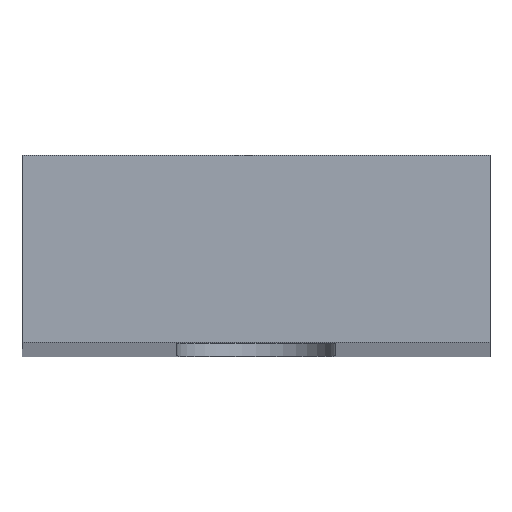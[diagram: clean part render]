
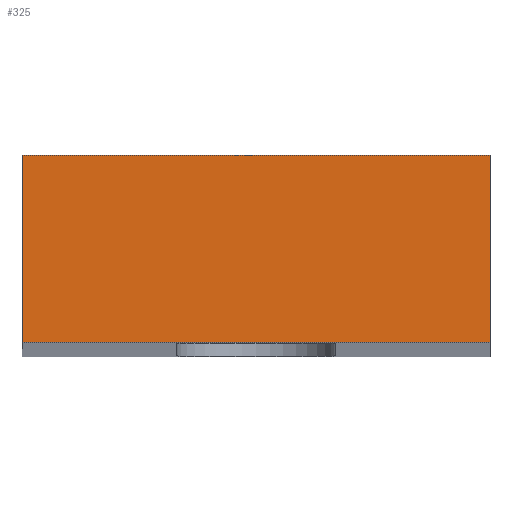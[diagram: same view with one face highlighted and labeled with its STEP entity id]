
A CAD part, top view. The second image highlights one B-rep face of the part: STEP entity #325.
In plain terms, the highlighted planar face has unit normal (0, 0, 1).
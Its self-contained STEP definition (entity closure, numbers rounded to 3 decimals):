
#24 = VERTEX_POINT('',#25);
#25 = CARTESIAN_POINT('',(35.,-22.,90.));
#32 = PLANE('',#33);
#33 = AXIS2_PLACEMENT_3D('',#34,#35,#36);
#34 = CARTESIAN_POINT('',(35.,-22.,-90.));
#35 = DIRECTION('',(1.,0.,0.));
#36 = DIRECTION('',(0.,0.,1.));
#44 = PLANE('',#45);
#45 = AXIS2_PLACEMENT_3D('',#46,#47,#48);
#46 = CARTESIAN_POINT('',(35.,-22.,-90.));
#47 = DIRECTION('',(0.,1.,0.));
#48 = DIRECTION('',(0.,0.,1.));
#85 = VERTEX_POINT('',#86);
#86 = CARTESIAN_POINT('',(35.,-18.,90.));
#100 = PLANE('',#101);
#101 = AXIS2_PLACEMENT_3D('',#102,#103,#104);
#102 = CARTESIAN_POINT('',(35.,-18.,-90.));
#103 = DIRECTION('',(0.,1.,0.));
#104 = DIRECTION('',(0.,0.,1.));
#112 = EDGE_CURVE('',#24,#85,#113,.T.);
#113 = SURFACE_CURVE('',#114,(#118,#125),.PCURVE_S1.);
#114 = LINE('',#115,#116);
#115 = CARTESIAN_POINT('',(35.,-22.,90.));
#116 = VECTOR('',#117,1.);
#117 = DIRECTION('',(0.,1.,0.));
#118 = PCURVE('',#32,#119);
#119 = DEFINITIONAL_REPRESENTATION('',(#120),#124);
#120 = LINE('',#121,#122);
#121 = CARTESIAN_POINT('',(180.,0.));
#122 = VECTOR('',#123,1.);
#123 = DIRECTION('',(0.,-1.));
#124 = ( GEOMETRIC_REPRESENTATION_CONTEXT(2) 
PARAMETRIC_REPRESENTATION_CONTEXT() REPRESENTATION_CONTEXT('2D SPACE',''
  ) );
#125 = PCURVE('',#126,#131);
#126 = PLANE('',#127);
#127 = AXIS2_PLACEMENT_3D('',#128,#129,#130);
#128 = CARTESIAN_POINT('',(35.,-22.,90.));
#129 = DIRECTION('',(0.,0.,1.));
#130 = DIRECTION('',(1.,0.,0.));
#131 = DEFINITIONAL_REPRESENTATION('',(#132),#136);
#132 = LINE('',#133,#134);
#133 = CARTESIAN_POINT('',(0.,0.));
#134 = VECTOR('',#135,1.);
#135 = DIRECTION('',(0.,1.));
#136 = ( GEOMETRIC_REPRESENTATION_CONTEXT(2) 
PARAMETRIC_REPRESENTATION_CONTEXT() REPRESENTATION_CONTEXT('2D SPACE',''
  ) );
#165 = EDGE_CURVE('',#24,#166,#168,.T.);
#166 = VERTEX_POINT('',#167);
#167 = CARTESIAN_POINT('',(45.,-22.,90.));
#168 = SURFACE_CURVE('',#169,(#173,#180),.PCURVE_S1.);
#169 = LINE('',#170,#171);
#170 = CARTESIAN_POINT('',(35.,-22.,90.));
#171 = VECTOR('',#172,1.);
#172 = DIRECTION('',(1.,0.,0.));
#173 = PCURVE('',#44,#174);
#174 = DEFINITIONAL_REPRESENTATION('',(#175),#179);
#175 = LINE('',#176,#177);
#176 = CARTESIAN_POINT('',(180.,0.));
#177 = VECTOR('',#178,1.);
#178 = DIRECTION('',(0.,1.));
#179 = ( GEOMETRIC_REPRESENTATION_CONTEXT(2) 
PARAMETRIC_REPRESENTATION_CONTEXT() REPRESENTATION_CONTEXT('2D SPACE',''
  ) );
#180 = PCURVE('',#126,#181);
#181 = DEFINITIONAL_REPRESENTATION('',(#182),#186);
#182 = LINE('',#183,#184);
#183 = CARTESIAN_POINT('',(0.,0.));
#184 = VECTOR('',#185,1.);
#185 = DIRECTION('',(1.,0.));
#186 = ( GEOMETRIC_REPRESENTATION_CONTEXT(2) 
PARAMETRIC_REPRESENTATION_CONTEXT() REPRESENTATION_CONTEXT('2D SPACE',''
  ) );
#202 = PLANE('',#203);
#203 = AXIS2_PLACEMENT_3D('',#204,#205,#206);
#204 = CARTESIAN_POINT('',(45.,-22.,-90.));
#205 = DIRECTION('',(1.,0.,0.));
#206 = DIRECTION('',(0.,0.,1.));
#325 = ADVANCED_FACE('',(#326),#126,.T.);
#326 = FACE_BOUND('',#327,.T.);
#327 = EDGE_LOOP('',(#328,#329,#330,#353));
#328 = ORIENTED_EDGE('',*,*,#112,.F.);
#329 = ORIENTED_EDGE('',*,*,#165,.T.);
#330 = ORIENTED_EDGE('',*,*,#331,.T.);
#331 = EDGE_CURVE('',#166,#332,#334,.T.);
#332 = VERTEX_POINT('',#333);
#333 = CARTESIAN_POINT('',(45.,-18.,90.));
#334 = SURFACE_CURVE('',#335,(#339,#346),.PCURVE_S1.);
#335 = LINE('',#336,#337);
#336 = CARTESIAN_POINT('',(45.,-22.,90.));
#337 = VECTOR('',#338,1.);
#338 = DIRECTION('',(0.,1.,0.));
#339 = PCURVE('',#126,#340);
#340 = DEFINITIONAL_REPRESENTATION('',(#341),#345);
#341 = LINE('',#342,#343);
#342 = CARTESIAN_POINT('',(10.,0.));
#343 = VECTOR('',#344,1.);
#344 = DIRECTION('',(0.,1.));
#345 = ( GEOMETRIC_REPRESENTATION_CONTEXT(2) 
PARAMETRIC_REPRESENTATION_CONTEXT() REPRESENTATION_CONTEXT('2D SPACE',''
  ) );
#346 = PCURVE('',#202,#347);
#347 = DEFINITIONAL_REPRESENTATION('',(#348),#352);
#348 = LINE('',#349,#350);
#349 = CARTESIAN_POINT('',(180.,0.));
#350 = VECTOR('',#351,1.);
#351 = DIRECTION('',(0.,-1.));
#352 = ( GEOMETRIC_REPRESENTATION_CONTEXT(2) 
PARAMETRIC_REPRESENTATION_CONTEXT() REPRESENTATION_CONTEXT('2D SPACE',''
  ) );
#353 = ORIENTED_EDGE('',*,*,#354,.F.);
#354 = EDGE_CURVE('',#85,#332,#355,.T.);
#355 = SURFACE_CURVE('',#356,(#360,#367),.PCURVE_S1.);
#356 = LINE('',#357,#358);
#357 = CARTESIAN_POINT('',(35.,-18.,90.));
#358 = VECTOR('',#359,1.);
#359 = DIRECTION('',(1.,0.,0.));
#360 = PCURVE('',#126,#361);
#361 = DEFINITIONAL_REPRESENTATION('',(#362),#366);
#362 = LINE('',#363,#364);
#363 = CARTESIAN_POINT('',(0.,4.));
#364 = VECTOR('',#365,1.);
#365 = DIRECTION('',(1.,0.));
#366 = ( GEOMETRIC_REPRESENTATION_CONTEXT(2) 
PARAMETRIC_REPRESENTATION_CONTEXT() REPRESENTATION_CONTEXT('2D SPACE',''
  ) );
#367 = PCURVE('',#100,#368);
#368 = DEFINITIONAL_REPRESENTATION('',(#369),#373);
#369 = LINE('',#370,#371);
#370 = CARTESIAN_POINT('',(180.,0.));
#371 = VECTOR('',#372,1.);
#372 = DIRECTION('',(0.,1.));
#373 = ( GEOMETRIC_REPRESENTATION_CONTEXT(2) 
PARAMETRIC_REPRESENTATION_CONTEXT() REPRESENTATION_CONTEXT('2D SPACE',''
  ) );
